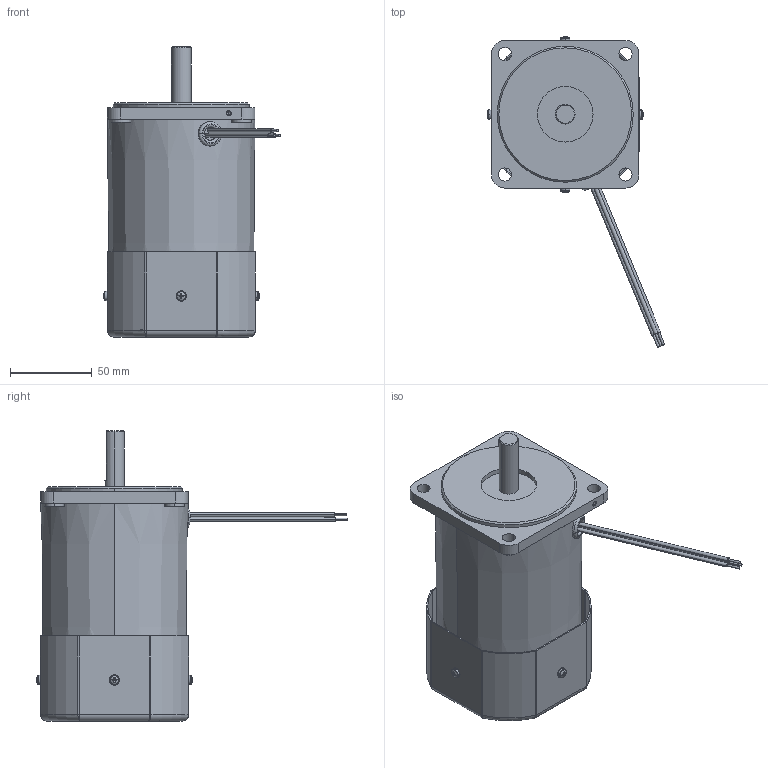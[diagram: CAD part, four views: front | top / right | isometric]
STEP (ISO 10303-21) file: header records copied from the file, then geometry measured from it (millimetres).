
FILE_DESCRIPTION (( 'STEP AP214' ), '1' );
FILE_NAME ('ACW090-090-140.STEP', '2009-10-02T15:39:57', ( 'Tim Raines' ), ( 'Anaheim Automation' ), 'SwSTEP 2.0', 'SolidWorks 2009', '' );
FILE_SCHEMA (( 'AUTOMOTIVE_DESIGN' ));
Length unit declared in the file: millimetre
Products named in the file (4): Pan Cross Head_AM_B18.6.7M - M3 x 0.5 x 8 Type I Cross Recessed PHMS --8N; Fan cover, ACW090; ACW090-090-140
Assembly tree (6 placements, depth 2):
  ACW090-090-140
    Pan Cross Head_AM_B18.6.7M - M3 x 0.5 x 8 Type I Cross Recessed PHMS --8N  x4
    Fan cover, ACW090
    ACW090-090-140
Bounding box: 108.39 x 189.89 x 177 mm (x, y, z)
Volume: 799940.8 mm3; surface area: 111390.7 mm2
Topology: 11 solids, 11 shells, 525 faces, 1272 edges, 765 vertices
Faces by surface type: plane 233, cylinder 195, cone 41, bspline 26, torus 22, sphere 8
Entity records: 20188 total; most frequent: CARTESIAN_POINT 4412, DIRECTION 2333, ORIENTED_EDGE 2192, EDGE_CURVE 1096, AXIS2_PLACEMENT_3D 860, VERTEX_POINT 675, VECTOR 613, LINE 613
